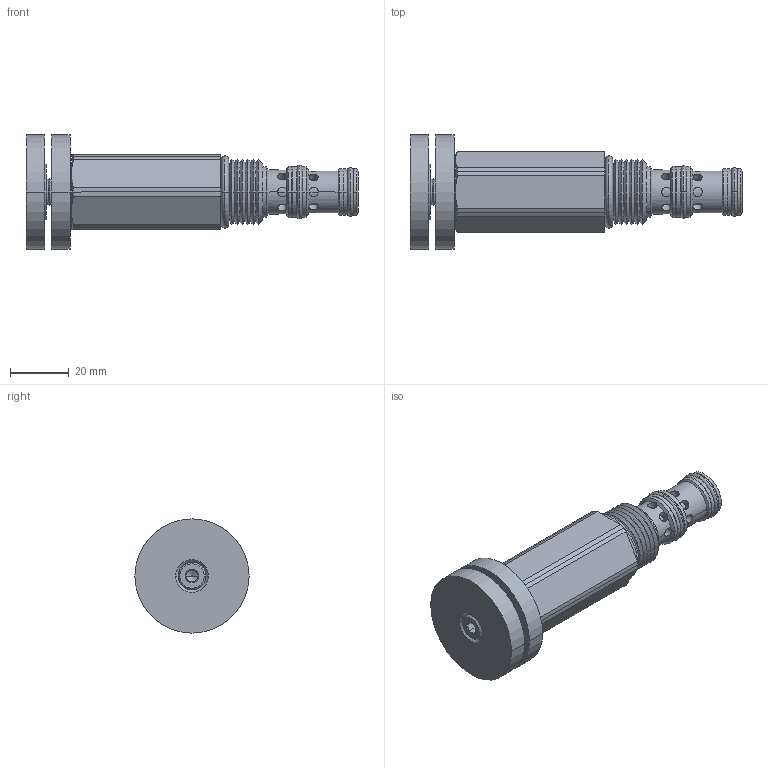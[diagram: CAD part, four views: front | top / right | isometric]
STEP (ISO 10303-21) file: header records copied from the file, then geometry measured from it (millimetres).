
FILE_DESCRIPTION((''),'2;1');
FILE_NAME('U:\Solid model CD\Solid model full\Mechanical\STEP\DFPWI0K-3D Full.stp','2008-07-29T09:22:43',('Dan'),(''),'Autodesk Inventor 9','Autodesk Inventor 9','');
FILE_SCHEMA(('AUTOMOTIVE_DESIGN { 1 0 10303 214 1 1 1 1 }'));
Length unit declared in the file: inch
Products named in the file (9): DFPWI0K-3D Full; DFPWI0K-3D Full1; DFPWI0K-3D Full2; DFPWI0K-3D Full3; DFPWI0K-3D Full4; DFPWI0K-3D Full5; DFPWI0K-3D Full6; DFPWI0K-3D Full7; DFPWI0K-3D Full8
Assembly tree (8 placements, depth 2):
  DFPWI0K-3D Full
    DFPWI0K-3D Full1
    DFPWI0K-3D Full2
    DFPWI0K-3D Full3
    DFPWI0K-3D Full4
    DFPWI0K-3D Full5
    DFPWI0K-3D Full6
    DFPWI0K-3D Full7
    DFPWI0K-3D Full8
Bounding box: 112.95 x 38.86 x 38.86 mm (x, y, z)
Volume: 53435.2 mm3; surface area: 18028.6 mm2
Topology: 8 solids, 8 shells, 289 faces, 651 edges, 391 vertices
Faces by surface type: cone 120, cylinder 110, plane 41, bspline 10, torus 8
Entity records: 9455 total; most frequent: CARTESIAN_POINT 2910, DIRECTION 1369, ORIENTED_EDGE 1302, EDGE_CURVE 651, AXIS2_PLACEMENT_3D 570, VERTEX_POINT 391, EDGE_LOOP 316, FACE_OUTER_BOUND 289
